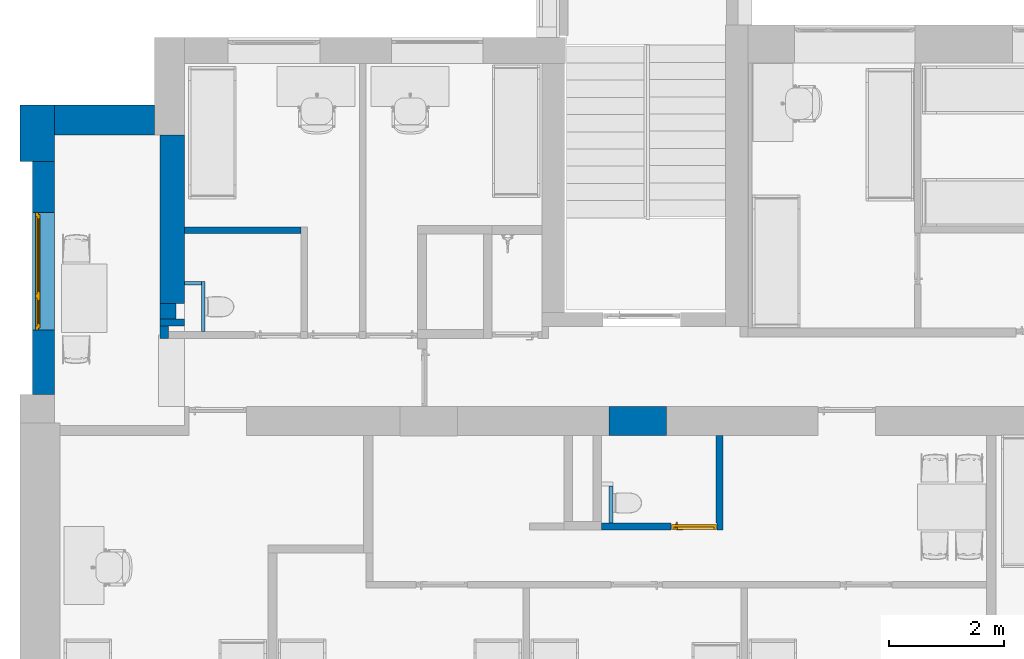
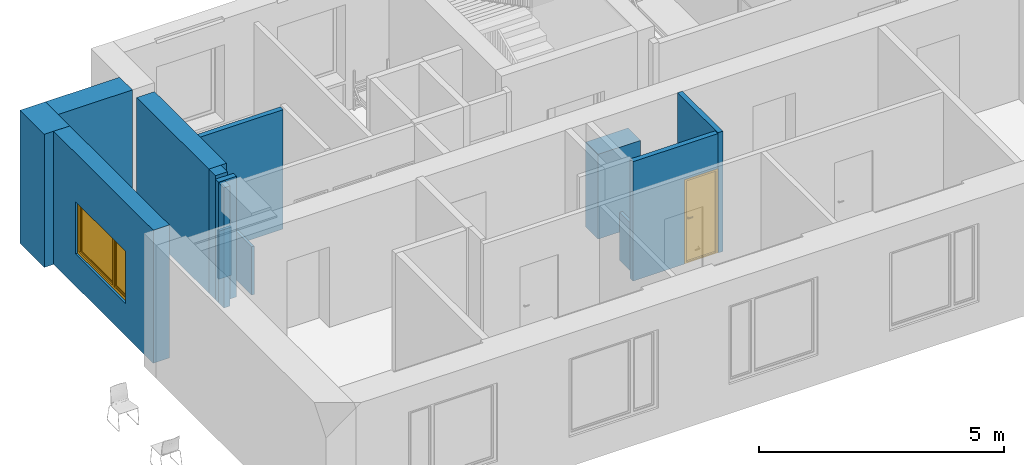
# One storey, part 4 of 48: 14 walls, 1 door, 1 window, 3 openings.
"""IFC2X3 building model written with IfcOpenShell, lengths in millimetres."""

import ifcopenshell
import ifcopenshell.guid

model = None  # the IFC model being written
_history = None  # IfcOwnerHistory: only IFC2X3 demands one
_inside = {}  # id of a spatial element -> (the spatial element, [elements in it])
_under = {}  # id of a project, library or spatial element -> (it, [spatial elements below it])
_declared = {}  # id of a project -> (the project, [libraries it declares])
_typed = {}  # id of a type object -> (the type object, [elements of that type])
_made_of = {}  # id of a material, layer set ... -> (it, [elements and type objects made of it])


def new_model(schema):
    """Start an empty IFC model of exactly this schema.

    Asked for "IFC4X3", IfcOpenShell would pick the latest addendum, in which some entities
    have other attributes; the version numbers below select the first issue.
    IFC2X3 requires an IfcOwnerHistory on every rooted entity: one is made here for all.
    """
    global model, _history
    if schema == "IFC4X3":
        model = ifcopenshell.file(schema_version=(4, 3, 0, 0))
    else:
        model = ifcopenshell.file(schema=schema)
    _inside.clear()
    _under.clear()
    _declared.clear()
    _typed.clear()
    _made_of.clear()
    _history = None
    if model.schema == "IFC2X3":
        org = make("IfcOrganization", Name="unknown")
        user = make(
            "IfcPersonAndOrganization",
            ThePerson=make("IfcPerson", FamilyName="unknown"),
            TheOrganization=org,
        )
        app = make(
            "IfcApplication",
            ApplicationDeveloper=org,
            Version="unknown",
            ApplicationFullName="unknown",
            ApplicationIdentifier="unknown",
        )
        _history = make(
            "IfcOwnerHistory",
            OwningUser=user,
            OwningApplication=app,
            ChangeAction="ADDED",
            CreationDate=0,
        )
    return model


def make(cls, **values):
    """One entity of the class cls with the attributes given. An attribute that is None is left unset."""
    return model.create_entity(
        cls, **{name: value for name, value in values.items() if value is not None}
    )


def entity(cls, *values):
    """Any entity or typed value of the class cls, its attributes in the order of the schema. None: left unset."""
    e = model.create_entity(cls)
    for i, value in enumerate(values):
        if value is not None:
            e[i] = value
    return e


def rooted(cls, **values):
    """An entity with a GlobalId (a new one), such as an element, a storey or a relation."""
    return make(cls, GlobalId=ifcopenshell.guid.new(), OwnerHistory=_history, **values)


def si_unit(unit_type, name, prefix=None):
    """IfcSIUnit, for example si_unit("LENGTHUNIT", "METRE", prefix="MILLI")."""
    return make("IfcSIUnit", UnitType=unit_type, Prefix=prefix, Name=name)


def converted_unit(unit_type, name, factor, base, dimensions=None, offset=None):
    """IfcConversionBasedUnit, such as the inch: factor (a typed value) times the base unit."""
    return make(
        "IfcConversionBasedUnit"
        if offset is None
        else "IfcConversionBasedUnitWithOffset",
        ConversionOffset=offset,
        Dimensions=None
        if dimensions is None
        else entity("IfcDimensionalExponents", *dimensions),
        UnitType=unit_type,
        Name=name,
        ConversionFactor=make(
            "IfcMeasureWithUnit", ValueComponent=factor, UnitComponent=base
        ),
    )


def derived_unit(unit_type, elements):
    """IfcDerivedUnit: a product of units, each with its exponent."""
    return make(
        "IfcDerivedUnit",
        Elements=[
            make("IfcDerivedUnitElement", Unit=unit, Exponent=power)
            for unit, power in elements
        ],
        UnitType=unit_type,
    )


def assignment(units):
    """IfcUnitAssignment: the units of a project."""
    return None if units is None else make("IfcUnitAssignment", Units=units)


def point(xyz):
    """IfcCartesianPoint."""
    return None if xyz is None else make("IfcCartesianPoint", Coordinates=xyz)


def direction(xyz):
    """IfcDirection."""
    return None if xyz is None else make("IfcDirection", DirectionRatios=xyz)


def frame(location, z_axis=None, x_axis=None):
    """IfcAxis2Placement3D, a coordinate frame: its origin and axes. An axis left out is left unset."""
    return make(
        "IfcAxis2Placement3D",
        Location=point(location),
        Axis=direction(z_axis),
        RefDirection=direction(x_axis),
    )


def frame_2d(location, x_axis=None):
    """IfcAxis2Placement2D, a coordinate frame in the plane: its origin and x axis."""
    return make(
        "IfcAxis2Placement2D", Location=point(location), RefDirection=direction(x_axis)
    )


def origin():
    """The frame at (0, 0, 0) with its axes left unset."""
    return frame((0.0, 0.0, 0.0))


def place(relative_to, where):
    """IfcLocalPlacement: puts the frame where relative to a parent placement (None: the world)."""
    return make(
        "IfcLocalPlacement", PlacementRelTo=relative_to, RelativePlacement=where
    )


def context(
    kind, dimensions, precision=None, world=None, true_north=None, identifier=None
):
    """IfcGeometricRepresentationContext, for example the 3D "Model" context."""
    return make(
        "IfcGeometricRepresentationContext",
        ContextIdentifier=identifier,
        ContextType=kind,
        CoordinateSpaceDimension=dimensions,
        Precision=precision,
        WorldCoordinateSystem=world,
        TrueNorth=true_north,
    )


def subcontext(parent, identifier, kind, view, scale=None):
    """IfcGeometricRepresentationSubContext, for example "Body" below "Model"."""
    return make(
        "IfcGeometricRepresentationSubContext",
        ContextIdentifier=identifier,
        ContextType=kind,
        ParentContext=parent,
        TargetScale=scale,
        TargetView=view,
    )


def project(units=None, contexts=None):
    """IfcProject with its units and contexts."""
    return rooted(
        "IfcProject",
        Name="project",
        RepresentationContexts=contexts,
        UnitsInContext=assignment(units),
    )


def spatial(cls, under=None, at=None, **own):
    """A site, building, storey or space (cls), placed at a placement, below another one or the project."""
    s = rooted(cls, ObjectPlacement=at, **own)
    if under is not None:
        _under.setdefault(under.id(), (under, []))[1].append(s)
    return s


def profile(cls, at=None, kind="AREA", **sizes):
    """A parametric profile (cls). Its sizes go by their IFC names, for example OverallWidth=200.0."""
    return make(cls, ProfileType=kind, Position=at, **sizes)


def rectangle(**sizes):
    """IfcRectangleProfileDef."""
    return profile("IfcRectangleProfileDef", **sizes)


def extrude(swept, where, along, depth):
    """IfcExtrudedAreaSolid: the profile swept, set in the frame where, extruded along a direction by depth."""
    return make(
        "IfcExtrudedAreaSolid",
        SweptArea=swept,
        Position=where,
        ExtrudedDirection=direction(along),
        Depth=depth,
    )


def faces_of(points, faces, orient=None, outer=None):
    """IfcFace entities. A face is a list of loops; a loop is a list of indices into points, from 0.

    orient and outer hold one flag for each loop. By default every Orientation is true, the
    first loop of a face is its IfcFaceOuterBound and the others are IfcFaceBound.
    """
    made = []
    for i, loops in enumerate(faces):
        bounds = []
        for j, loop in enumerate(loops):
            is_outer = j == 0 if outer is None else outer[i][j]
            bounds.append(
                make(
                    "IfcFaceOuterBound" if is_outer else "IfcFaceBound",
                    Bound=make("IfcPolyLoop", Polygon=[points[k] for k in loop]),
                    Orientation=True if orient is None else orient[i][j],
                )
            )
        made.append(make("IfcFace", Bounds=bounds))
    return made


def faceted_brep(points, faces, orient=None, outer=None, voids=None):
    """IfcFacetedBrep: a solid bounded by flat faces; with voids (closed shells), ...WithVoids."""
    shared = [point(p) for p in points]
    hull = make("IfcClosedShell", CfsFaces=faces_of(shared, faces, orient, outer))
    if voids is None:
        return make("IfcFacetedBrep", Outer=hull)
    return make(
        "IfcFacetedBrepWithVoids",
        Outer=hull,
        Voids=[
            make(cls, CfsFaces=faces_of(shared, fs, o, b)) for cls, fs, o, b in voids
        ],
    )


def shape(context_of_items, identifier, shape_type, items):
    """IfcShapeRepresentation: the items that make up one representation, for example the "Body"."""
    return make(
        "IfcShapeRepresentation",
        ContextOfItems=context_of_items,
        RepresentationIdentifier=identifier,
        RepresentationType=shape_type,
        Items=items,
    )


def source(mapping_origin, context_of_items, identifier, shape_type, items):
    """IfcRepresentationMap: a shape defined once, which mapped items show again and again."""
    return make(
        "IfcRepresentationMap",
        MappingOrigin=mapping_origin,
        MappedRepresentation=shape(context_of_items, identifier, shape_type, items),
    )


def transform(
    local_origin,
    x_axis=None,
    y_axis=None,
    z_axis=None,
    scale=None,
    scale2=None,
    scale3=None,
    uniform=True,
):
    """IfcCartesianTransformationOperator3D, or its non-uniform kind. x_axis, y_axis, z_axis: its Axis1, 2, 3."""
    if uniform:
        return make(
            "IfcCartesianTransformationOperator3D",
            Axis1=direction(x_axis),
            Axis2=direction(y_axis),
            LocalOrigin=point(local_origin),
            Scale=scale,
            Axis3=direction(z_axis),
        )
    return make(
        "IfcCartesianTransformationOperator3DnonUniform",
        Axis1=direction(x_axis),
        Axis2=direction(y_axis),
        LocalOrigin=point(local_origin),
        Scale=scale,
        Axis3=direction(z_axis),
        Scale2=scale2,
        Scale3=scale3,
    )


def mapped(mapping_source, mapping_target):
    """IfcMappedItem: shows the shape of a source again, moved by a transform."""
    return make(
        "IfcMappedItem", MappingSource=mapping_source, MappingTarget=mapping_target
    )


def material(Name=None, Category=None):
    """IfcMaterial."""
    return make("IfcMaterial", Name=Name, Category=Category)


def material_list(materials):
    """IfcMaterialList."""
    return make("IfcMaterialList", Materials=materials)


def layer(
    of_material, thickness, ventilated=None, Name=None, Category=None, Priority=None
):
    """IfcMaterialLayer: one layer of a wall or slab, of a material (None: an air gap)."""
    return make(
        "IfcMaterialLayer",
        Material=of_material,
        LayerThickness=thickness,
        IsVentilated=ventilated,
        Name=Name,
        Category=Category,
        Priority=Priority,
    )


def layer_set(layers, Name=None):
    """IfcMaterialLayerSet."""
    return make("IfcMaterialLayerSet", MaterialLayers=layers, LayerSetName=Name)


def layer_usage(for_layer_set, set_direction, sense, offset, extent=None):
    """IfcMaterialLayerSetUsage: how a layer set lies in its element."""
    return make(
        "IfcMaterialLayerSetUsage",
        ForLayerSet=for_layer_set,
        LayerSetDirection=set_direction,
        DirectionSense=sense,
        OffsetFromReferenceLine=offset,
        ReferenceExtent=extent,
    )


def made_of(thing, what):
    """Note that an element or type object is made of a material, layer set ...; save() writes the relation."""
    if what is not None:
        _made_of.setdefault(what.id(), (what, []))[1].append(thing)
    return thing


def type_object(cls, material=None, **own):
    """A type object (cls), such as IfcWallType, which elements share."""
    return made_of(rooted(cls, **own), material)


def type_shapes(of_type, sources):
    """Give a type object the sources (RepresentationMaps) that its elements show as mapped items."""
    of_type.RepresentationMaps = sources


def element(
    cls,
    number,
    at=None,
    inside=None,
    cuts=None,
    type_object=None,
    material=None,
    context=None,
    identifier="Body",
    shape_type=None,
    held_by="IfcProductDefinitionShape",
    body=None,
    shapes=None,
    **own,
):
    """One element of the class cls, such as IfcWall. Its Tag is "e" and its number.

    at: its placement. inside: the storey or other place that contains it. cuts: it is an
    opening in that element (IfcRelVoidsElement). A single representation is given by context,
    identifier, shape_type and body (its items); several are given by shapes. held_by: the class
    of the entity that holds the representations. save() writes the other relations.
    """
    e = rooted(cls, Tag="e%d" % number, ObjectPlacement=at, **own)
    if body is not None:
        shapes = [shape(context, identifier, shape_type, body)]
    if shapes is not None:
        e.Representation = make(held_by, Representations=shapes)
    if inside is not None:
        _inside.setdefault(inside.id(), (inside, []))[1].append(e)
    if cuts is not None:
        rooted(
            "IfcRelVoidsElement", RelatingBuildingElement=cuts, RelatedOpeningElement=e
        )
    if type_object is not None:
        _typed.setdefault(type_object.id(), (type_object, []))[1].append(e)
    return made_of(e, material)


def fill(opening, filler):
    """IfcRelFillsElement: the door or window that sits in an opening."""
    return rooted(
        "IfcRelFillsElement",
        RelatingOpeningElement=opening,
        RelatedBuildingElement=filler,
    )


def aggregate(whole, parts):
    """IfcRelAggregates: a whole, such as a stair, and the parts it consists of."""
    return rooted("IfcRelAggregates", RelatingObject=whole, RelatedObjects=parts)


def save(model, path):
    """Write the relations noted so far, then the file.

    IfcRelAggregates (storeys below a building ...), IfcRelContainedInSpatialStructure (elements
    in a storey), IfcRelDefinesByType, IfcRelAssociatesMaterial and IfcRelDeclares: one each for
    every whole, place, type object, material and project.
    """
    for whole, parts in _under.values():
        aggregate(whole, parts)
    for where, things in _inside.values():
        rooted(
            "IfcRelContainedInSpatialStructure",
            RelatedElements=things,
            RelatingStructure=where,
        )
    for kind, things in _typed.values():
        rooted("IfcRelDefinesByType", RelatedObjects=things, RelatingType=kind)
    for what, things in _made_of.values():
        rooted("IfcRelAssociatesMaterial", RelatedObjects=things, RelatingMaterial=what)
    for by, libraries in _declared.values():
        rooted("IfcRelDeclares", RelatingContext=by, RelatedDefinitions=libraries)
    model.write(path)


model = new_model("IFC2X3")

# Units and contexts
model_context = context("Model", 3, precision=0.01, world=origin(), true_north=direction((6.12303176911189e-17, 1.0)))
body_context = subcontext(model_context, "Body", "Model", "MODEL_VIEW")
ifc_project = project(units=[si_unit("LENGTHUNIT", "METRE", prefix="MILLI"), si_unit("AREAUNIT", "SQUARE_METRE"), si_unit("VOLUMEUNIT", "CUBIC_METRE"), converted_unit("PLANEANGLEUNIT", "DEGREE", entity("IfcRatioMeasure", 0.0174532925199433), si_unit("PLANEANGLEUNIT", "RADIAN"), dimensions=[0, 0, 0, 0, 0, 0, 0]), si_unit("MASSUNIT", "GRAM", prefix="KILO"), derived_unit("MASSDENSITYUNIT", [(si_unit("MASSUNIT", "GRAM", prefix="KILO"), 1), (si_unit("LENGTHUNIT", "METRE"), -3)]), si_unit("TIMEUNIT", "SECOND"), si_unit("FREQUENCYUNIT", "HERTZ"), si_unit("THERMODYNAMICTEMPERATUREUNIT", "DEGREE_CELSIUS"), derived_unit("THERMALTRANSMITTANCEUNIT", [(si_unit("MASSUNIT", "GRAM", prefix="KILO"), 1), (si_unit("THERMODYNAMICTEMPERATUREUNIT", "KELVIN"), -1), (si_unit("TIMEUNIT", "SECOND"), -3)]), derived_unit("VOLUMETRICFLOWRATEUNIT", [(si_unit("LENGTHUNIT", "METRE"), 3), (si_unit("TIMEUNIT", "SECOND"), -1)]), si_unit("ELECTRICCURRENTUNIT", "AMPERE"), si_unit("ELECTRICVOLTAGEUNIT", "VOLT"), si_unit("POWERUNIT", "WATT"), si_unit("FORCEUNIT", "NEWTON", prefix="KILO"), si_unit("ILLUMINANCEUNIT", "LUX"), si_unit("LUMINOUSFLUXUNIT", "LUMEN"), si_unit("LUMINOUSINTENSITYUNIT", "CANDELA"), derived_unit("USERDEFINED", [(si_unit("MASSUNIT", "GRAM", prefix="KILO"), -1), (si_unit("LENGTHUNIT", "METRE"), -2), (si_unit("TIMEUNIT", "SECOND"), 3), (si_unit("LUMINOUSFLUXUNIT", "LUMEN"), 1)]), derived_unit("LINEARVELOCITYUNIT", [(si_unit("LENGTHUNIT", "METRE"), 1), (si_unit("TIMEUNIT", "SECOND"), -1)]), si_unit("PRESSUREUNIT", "PASCAL"), derived_unit("USERDEFINED", [(si_unit("LENGTHUNIT", "METRE"), -2), (si_unit("MASSUNIT", "GRAM", prefix="KILO"), 1), (si_unit("TIMEUNIT", "SECOND"), -2)]), derived_unit("LINEARFORCEUNIT", [(si_unit("MASSUNIT", "GRAM", prefix="KILO"), 1), (si_unit("LENGTHUNIT", "METRE"), 1), (si_unit("TIMEUNIT", "SECOND"), -2), (si_unit("LENGTHUNIT", "METRE"), -1)]), derived_unit("PLANARFORCEUNIT", [(si_unit("MASSUNIT", "GRAM", prefix="KILO"), 1), (si_unit("LENGTHUNIT", "METRE"), 1), (si_unit("TIMEUNIT", "SECOND"), -2), (si_unit("LENGTHUNIT", "METRE"), -2)])], contexts=[model_context])

# Site, building, storey
site_placement = place(None, origin())
site = spatial("IfcSite", under=ifc_project, at=site_placement, Name="Default", CompositionType="ELEMENT")
building_placement = place(site_placement, origin())
building = spatial("IfcBuilding", under=site, at=building_placement, Name="SMA ARH", CompositionType="ELEMENT")
storey_placement = place(building_placement, frame((0.0, 0.0, 6600.0)))
storey = spatial("IfcBuildingStorey", under=building, at=storey_placement, Name="3 Korrus", CompositionType="ELEMENT", Elevation=6599.99999999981)

# Walls
ifc_material_1 = material(Name="_ol.olev sein")
ifc_layer_1 = layer(ifc_material_1, 520.0)
ifc_layer_set_1 = layer_set([ifc_layer_1], Name="Basic Wall:Generic - 520mm")
ifc_layer_usage_1 = layer_usage(ifc_layer_set_1, "AXIS2", "NEGATIVE", 260.0)
wall_type_1 = type_object("IfcWallType", Name="Basic Wall:Generic - 520mm", PredefinedType="STANDARD", material=ifc_layer_set_1)
wall_1_placement = place(storey_placement, frame((-100.0, 11510.0, 0.0)))
element("IfcWallStandardCase", 1, at=wall_1_placement, inside=storey, type_object=wall_type_1, material=ifc_layer_usage_1, Name="Basic Wall:Generic - 520mm", ObjectType="Basic Wall:Generic - 520mm", context=body_context, shape_type="SweptSolid", body=[
    extrude(rectangle(XDim=1745.00000000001, YDim=519.999999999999, at=frame_2d((872.500000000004, -8.5265128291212e-14), x_axis=(-1.0, 0.0))), origin(), (0.0, 0.0, 1.0), 3309.99999999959),
])
ifc_layer_2 = layer(ifc_material_1, 420.0)
ifc_layer_set_2 = layer_set([ifc_layer_2], Name="Basic Wall:Generic - 420mm")
ifc_layer_usage_2 = layer_usage(ifc_layer_set_2, "AXIS2", "NEGATIVE", 210.0)
wall_type_2 = type_object("IfcWallType", Name="Basic Wall:Generic - 420mm", PredefinedType="STANDARD", material=ifc_layer_set_2)
wall_2_placement = place(storey_placement, frame((1955.0, 11250.0, 0.0), z_axis=(0.0, 0.0, 1.0), x_axis=(0.0, -1.0, 0.0)))
element("IfcWallStandardCase", 2, at=wall_2_placement, inside=storey, type_object=wall_type_2, material=ifc_layer_usage_2, Name="Basic Wall:Generic - 420mm", ObjectType="Basic Wall:Generic - 420mm", context=body_context, shape_type="SweptSolid", body=[
    extrude(rectangle(XDim=2940.0, YDim=420.0, at=frame_2d((1470.0, 8.5265128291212e-14), x_axis=(-1.0, 0.0))), origin(), (0.0, 0.0, 1.0), 3086.49598494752),
])
ifc_layer_usage_3 = layer_usage(ifc_layer_set_2, "AXIS2", "NEGATIVE", 210.0)
wall_3_placement = place(storey_placement, frame((1955.0, 8041.44692735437, 0.0), z_axis=(0.0, 0.0, 1.0), x_axis=(0.0, -1.0, 0.0)))
element("IfcWallStandardCase", 3, at=wall_3_placement, inside=storey, type_object=wall_type_2, material=ifc_layer_usage_3, Name="Basic Wall:Generic - 420mm", ObjectType="Basic Wall:Generic - 420mm", context=body_context, shape_type="SweptSolid", body=[
    extrude(rectangle(XDim=126.569300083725, YDim=420.0, at=frame_2d((63.2846500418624, -4.2632564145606e-14), x_axis=(-1.0, 0.0))), origin(), (0.0, 0.0, 1.0), 2999.99999999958),
])
ifc_layer_3 = layer(ifc_material_1, 280.0)
ifc_layer_set_3 = layer_set([ifc_layer_3], Name="Basic Wall:Generic - 280mm")
ifc_layer_usage_4 = layer_usage(ifc_layer_set_3, "AXIS2", "NEGATIVE", 140.0)
wall_type_3 = type_object("IfcWallType", Name="Basic Wall:Generic - 280mm", PredefinedType="STANDARD", material=ifc_layer_set_3)
wall_4_placement = place(storey_placement, frame((1885.0, 8310.0, 0.0), z_axis=(0.0, 0.0, 1.0), x_axis=(0.0, -1.0, 0.0)))
element("IfcWallStandardCase", 4, at=wall_4_placement, inside=storey, type_object=wall_type_3, material=ifc_layer_usage_4, Name="Basic Wall:Generic - 280mm", ObjectType="Basic Wall:Generic - 280mm", context=body_context, shape_type="SweptSolid", body=[
    extrude(rectangle(XDim=268.5530726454, YDim=280.0, at=frame_2d((134.2765363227, -4.2632564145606e-14), x_axis=(-1.0, 0.0))), origin(), (0.0, 0.0, 1.0), 3086.49598494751),
])
ifc_layer_4 = layer(ifc_material_1, 600.0)
ifc_layer_set_4 = layer_set([ifc_layer_4], Name="Basic Wall:Generic - 600mm")
ifc_layer_usage_5 = layer_usage(ifc_layer_set_4, "AXIS2", "NEGATIVE", 300.0)
wall_type_4 = type_object("IfcWallType", Name="Basic Wall:Generic - 600mm", PredefinedType="STANDARD", material=ifc_layer_set_4)
wall_5_placement = place(storey_placement, frame((-400.0, 10780.0, 0.0), z_axis=(0.0, 0.0, 1.0), x_axis=(0.0, 1.0, 0.0)))
element("IfcWallStandardCase", 5, at=wall_5_placement, inside=storey, type_object=wall_type_4, material=ifc_layer_usage_5, Name="Basic Wall:Generic - 600mm", ObjectType="Basic Wall:Generic - 600mm", context=body_context, shape_type="SweptSolid", body=[
    extrude(rectangle(XDim=990.000000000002, YDim=600.0, at=frame_2d((495.000000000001, 2.8421709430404e-14), x_axis=(-1.0, 0.0))), origin(), (0.0, 0.0, 1.0), 3309.99999999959),
])

# Wall, opening, window
ifc_layer_5 = layer(ifc_material_1, 380.0)
ifc_layer_set_5 = layer_set([ifc_layer_5], Name="Basic Wall:Generic - 380mm")
ifc_layer_usage_6 = layer_usage(ifc_layer_set_5, "AXIS2", "NEGATIVE", 190.0)
wall_type_5 = type_object("IfcWallType", Name="Basic Wall:Generic - 380mm", PredefinedType="STANDARD", material=ifc_layer_set_5)
wall_6_placement = place(storey_placement, frame((-290.0, 6720.0, 0.0), z_axis=(0.0, 0.0, 1.0), x_axis=(0.0, 1.0, 0.0)))
wall_6 = element("IfcWallStandardCase", 6, at=wall_6_placement, inside=storey, type_object=wall_type_5, material=ifc_layer_usage_6, Name="Basic Wall:Generic - 380mm", ObjectType="Basic Wall:Generic - 380mm", context=body_context, shape_type="SweptSolid", body=[
    extrude(rectangle(XDim=4059.99999999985, YDim=380.0, at=frame_2d((2029.99999999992, 0.0), x_axis=(-1.0, 0.0))), origin(), (0.0, 0.0, 1.0), 3309.99999999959),
])
opening_1_placement = place(wall_6_placement, frame((1125.0, -190.0, 800.0)))
opening_1 = element("IfcOpeningElement", 7, at=opening_1_placement, cuts=wall_6, Name="SMA_W2, 2-jaotus:A-00 - 2100x1300:1", ObjectType="Opening", context=body_context, shape_type="SweptSolid", body=[
    extrude(rectangle(XDim=1300.0, YDim=2050.0, at=frame_2d((650.0, 1025.0), x_axis=(1.0, 0.0))), frame((0.0, 0.0, 0.0), z_axis=(0.0, 1.0, 0.0), x_axis=(0.0, 0.0, 1.0)), (0.0, 0.0, 1.0), 380.0),
])
ifc_material_2 = material(Name="Glass")
ifc_material_3 = material(Name="Hall")
ifc_material_list_1 = material_list([ifc_material_2, ifc_material_3])
ifc_material_4 = material(Name="<Unnamed>")
ifc_material_list_2 = material_list([ifc_material_4, ifc_material_3, ifc_material_2, ifc_material_4, ifc_material_3])
window_style = type_object("IfcWindowStyle", Name="SMA_W2, 2-jaotus:A-00 - 2100x1300", ConstructionType="NOTDEFINED", OperationType="NOTDEFINED", ParameterTakesPrecedence=False, Sizeable=False, material=ifc_material_list_2)
shared_shape_1 = source(origin(), body_context, "Body", "Brep", [
    faceted_brep([(1945.0, 270.0, 1195.0), (660.0, 270.0, 1195.0), (660.0, 270.0, 105.0), (1945.0, 270.0, 105.0), (1945.0, 290.0, 105.0), (1945.0, 290.0, 1195.0), (660.0, 290.0, 105.0), (660.0, 290.0, 1195.0)], [[[0, 1, 2, 3]], [[3, 4, 5, 0]], [[2, 6, 4, 3]], [[1, 7, 6, 2]], [[5, 4, 6, 7]], [[0, 5, 7, 1]]]),
    faceted_brep([(520.0, 270.0, 105.0), (520.0, 270.0, 1195.0), (105.0, 270.0, 1195.0), (105.0, 270.0, 105.0), (105.0, 290.0, 105.0), (520.0, 290.0, 105.0), (105.0, 290.0, 1195.0), (520.0, 290.0, 1195.0)], [[[0, 1, 2, 3]], [[3, 4, 5, 0]], [[2, 6, 4, 3]], [[0, 5, 7, 1]], [[5, 4, 6, 7]], [[1, 7, 6, 2]]]),
    faceted_brep([(2015.0, 255.0, 35.0), (2015.0, 255.0, 1265.0), (590.0, 255.0, 1265.0), (590.0, 255.0, 35.0), (660.0, 255.0, 1195.0), (1945.0, 255.0, 1195.0), (1945.0, 255.0, 105.0), (660.0, 255.0, 105.0), (590.0, 305.0, 35.0), (2015.0, 305.0, 35.0), (590.0, 305.0, 1265.0), (2015.0, 305.0, 1265.0), (660.0, 305.0, 105.0), (660.0, 305.0, 1195.0), (1945.0, 305.0, 105.0), (1945.0, 305.0, 1195.0)], [[[0, 1, 2, 3], [4, 5, 6, 7]], [[3, 8, 9, 0]], [[2, 10, 8, 3]], [[0, 9, 11, 1]], [[7, 12, 13, 4]], [[6, 14, 12, 7]], [[5, 15, 14, 6]], [[9, 8, 10, 11], [13, 12, 14, 15]], [[1, 11, 10, 2]], [[4, 13, 15, 5]]]),
    faceted_brep([(590.0, 255.0, 35.0), (590.0, 255.0, 1265.0), (35.0, 255.0, 1265.0), (35.0, 255.0, 35.0), (105.0, 255.0, 1195.0), (520.0, 255.0, 1195.0), (520.0, 255.0, 105.0), (105.0, 255.0, 105.0), (35.0, 305.0, 35.0), (590.0, 305.0, 35.0), (35.0, 305.0, 1265.0), (590.0, 305.0, 1265.0), (105.0, 305.0, 105.0), (105.0, 305.0, 1195.0), (520.0, 305.0, 105.0), (520.0, 305.0, 1195.0)], [[[0, 1, 2, 3], [4, 5, 6, 7]], [[3, 8, 9, 0]], [[2, 10, 8, 3]], [[0, 9, 11, 1]], [[7, 12, 13, 4]], [[6, 14, 12, 7]], [[5, 15, 14, 6]], [[9, 8, 10, 11], [13, 12, 14, 15]], [[1, 11, 10, 2]], [[4, 13, 15, 5]]]),
    faceted_brep([(35.0, 280.0, 35.0), (35.0, 280.0, 1265.0), (590.0, 280.0, 1265.0), (590.0, 280.0, 35.0), (1980.0, 280.0, 1230.0), (1980.0, 280.0, 70.0), (625.0, 280.0, 70.0), (625.0, 280.0, 1230.0), (2050.0, 280.0, 0.0), (2050.0, 280.0, 1300.0), (0.0, 280.0, 1300.0), (0.0, 280.0, 0.0), (0.0, 330.0, 0.0), (2050.0, 330.0, 0.0), (0.0, 330.0, 1300.0), (2050.0, 330.0, 1300.0), (625.0, 330.0, 70.0), (625.0, 330.0, 1230.0), (1980.0, 330.0, 70.0), (1980.0, 330.0, 1230.0), (35.0, 305.0, 35.0), (590.0, 305.0, 35.0), (590.0, 305.0, 1265.0), (35.0, 305.0, 1265.0), (555.0, 330.0, 1230.0), (70.0, 330.0, 1230.0), (70.0, 330.0, 70.0), (555.0, 330.0, 70.0), (555.0, 305.0, 70.0), (555.0, 305.0, 1230.0), (70.0, 305.0, 70.0), (70.0, 305.0, 1230.0)], [[[0, 1, 2, 3], [4, 5, 6, 7], [8, 9, 10, 11]], [[11, 12, 13, 8]], [[10, 14, 12, 11]], [[8, 13, 15, 9]], [[6, 16, 17, 7]], [[5, 18, 16, 6]], [[4, 19, 18, 5]], [[20, 0, 3, 21]], [[21, 3, 2, 22]], [[23, 1, 0, 20]], [[13, 12, 14, 15], [24, 25, 26, 27], [19, 17, 16, 18]], [[27, 28, 29, 24]], [[26, 30, 28, 27]], [[25, 31, 30, 26]], [[21, 22, 23, 20], [29, 28, 30, 31]], [[9, 15, 14, 10]], [[24, 29, 31, 25]], [[7, 17, 19, 4]], [[22, 2, 1, 23]]], outer=[[False, False, True], [True], [True], [True], [True], [True], [True], [True], [True], [True], [True, False, False], [True], [True], [True], [True, False], [True], [True], [True], [True]]),
])
type_shapes(window_style, [shared_shape_1])
window_placement = place(opening_1_placement, origin())
window = element("IfcWindow", 8, at=window_placement, inside=storey, type_object=window_style, material=ifc_material_list_1, Name="SMA_W2, 2-jaotus:A-00 - 2100x1300", ObjectType="SMA_W2, 2-jaotus:A-00 - 2100x1300", OverallHeight=1300.0, OverallWidth=2050.0, context=body_context, shape_type="MappedRepresentation", body=[
    mapped(shared_shape_1, transform((0.0, 0.0, 0.0), scale=1.0)),
])
fill(opening_1, window)

# Wall
ifc_material_5 = material(Name="EST. Ehitusplaat. Kipsplaat")
ifc_layer_6 = layer(ifc_material_5, 12.5)
ifc_layer_7 = layer(ifc_material_5, 12.5)
ifc_material_6 = material(Name="EST. Soojustus. Mineraalvill. Default")
ifc_layer_8 = layer(ifc_material_6, 66.0)
ifc_layer_9 = layer(ifc_material_5, 12.5)
ifc_layer_10 = layer(ifc_material_5, 12.5)
ifc_layer_set_6 = layer_set([ifc_layer_6, ifc_layer_7, ifc_layer_8, ifc_layer_9, ifc_layer_10], Name="Basic Wall:SS-05_Kips, 66mm metallkarkass")
ifc_layer_usage_7 = layer_usage(ifc_layer_set_6, "AXIS2", "NEGATIVE", 58.0)
wall_type_6 = type_object("IfcWallType", Name="Basic Wall:SS-05_Kips, 66mm metallkarkass", PredefinedType="STANDARD", material=ifc_layer_set_6)
wall_7_placement = place(storey_placement, frame((2165.0, 9585.50000000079, 0.0)))
element("IfcWallStandardCase", 9, at=wall_7_placement, inside=storey, type_object=wall_type_6, material=ifc_layer_usage_7, Name="Basic Wall:SS-05_Kips, 66mm metallkarkass", ObjectType="Basic Wall:SS-05_Kips, 66mm metallkarkass", context=body_context, shape_type="SweptSolid", body=[
    extrude(rectangle(XDim=2032.32130046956, YDim=116.0, at=frame_2d((1016.16065023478, -7.46069872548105e-14), x_axis=(-1.0, 0.0))), origin(), (0.0, 0.0, 1.0), 2970.00000000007),
])

# Wall, opening, door
ifc_layer_11 = layer(ifc_material_5, 12.5)
ifc_layer_12 = layer(ifc_material_5, 12.5)
ifc_material_7 = material(Name="EST. Õhkvahe. Roov. Kipsplaadi alusroov. Vertikaalne")
ifc_layer_13 = layer(ifc_material_7, 66.0)
ifc_layer_14 = layer(ifc_material_5, 12.5)
ifc_layer_15 = layer(ifc_material_5, 12.5)
ifc_layer_set_7 = layer_set([ifc_layer_11, ifc_layer_12, ifc_layer_13, ifc_layer_14, ifc_layer_15], Name="Basic Wall:SS-03_Kips, 66mm metallkarkass")
ifc_layer_usage_8 = layer_usage(ifc_layer_set_7, "AXIS2", "NEGATIVE", 58.0)
wall_type_7 = type_object("IfcWallType", Name="Basic Wall:SS-03_Kips, 66mm metallkarkass", PredefinedType="STANDARD", material=ifc_layer_set_7)
wall_8_placement = place(storey_placement, frame((9440.0, 4418.0, 0.0)))
wall_8 = element("IfcWallStandardCase", 10, at=wall_8_placement, inside=storey, type_object=wall_type_7, material=ifc_layer_usage_8, Name="Basic Wall:SS-03_Kips, 66mm metallkarkass", ObjectType="Basic Wall:SS-03_Kips, 66mm metallkarkass", context=body_context, shape_type="SweptSolid", body=[
    extrude(rectangle(XDim=2002.00000000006, YDim=116.0, at=frame_2d((1001.00000000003, 9.2370555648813e-14), x_axis=(-1.0, 0.0))), origin(), (0.0, 0.0, 1.0), 2970.00000000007),
])
opening_2_placement = place(wall_8_placement, frame((1214.50000000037, -58.0, 0.0)))
opening_2 = element("IfcOpeningElement", 11, at=opening_2_placement, cuts=wall_8, Name="SMA_D01, 1-poolne:SU-P-06 - 800x2100 DUŠŠ:1", ObjectType="Opening", context=body_context, shape_type="SweptSolid", body=[
    extrude(rectangle(XDim=2099.99999999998, YDim=800.0, at=frame_2d((1049.99999999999, 400.0), x_axis=(1.0, 0.0))), frame((0.0, 0.0, 0.0), z_axis=(0.0, 1.0, 0.0), x_axis=(0.0, 0.0, 1.0)), (0.0, 0.0, 1.0), 116.0),
])
ifc_material_8 = material(Name="EST. Metall. Alumiinium. Värvitud. RAL7023 (Concrete grey)")
ifc_material_9 = material(Name="EST. Klaas. 3x. Default")
ifc_material_list_3 = material_list([ifc_material_8, ifc_material_8, ifc_material_4, ifc_material_9, ifc_material_4, ifc_material_8, ifc_material_4])
door_style = type_object("IfcDoorStyle", Name="SMA_D01, 1-poolne:SU-P-06 - 800x2100 DUŠŠ", ConstructionType="NOTDEFINED", OperationType="SINGLE_SWING_RIGHT", ParameterTakesPrecedence=False, Sizeable=False, material=ifc_material_list_3)
shared_shape_2 = source(origin(), body_context, "Body", "Brep", [
    faceted_brep([(110.0, 6.0, 1112.5), (110.0, 44.0, 1112.5), (85.0, 44.0, 1112.5), (85.0, 1.0, 1112.5), (205.0, 1.0, 1112.5), (205.0, 6.0, 1112.5), (110.0, 6.0, 1087.5), (205.0, 6.0, 1087.5), (205.0, 1.0, 1087.5), (85.0, 1.0, 1087.5), (85.0, 44.0, 1087.5), (110.0, 44.0, 1087.5)], [[[0, 1, 2, 3, 4, 5]], [[6, 7, 8, 9, 10, 11]], [[1, 0, 6, 11]], [[2, 1, 11, 10]], [[3, 2, 10, 9]], [[4, 3, 9, 8]], [[5, 4, 8, 7]], [[0, 5, 7, 6]]]),
    faceted_brep([(122.5, 44.0, 1137.5), (122.5, 46.0, 1137.5), (72.4999999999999, 46.0, 1137.5), (72.4999999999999, 44.0, 1137.5), (122.5, 44.0, 1017.5), (72.4999999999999, 44.0, 1017.5), (72.4999999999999, 46.0, 1017.5), (122.5, 46.0, 1017.5)], [[[0, 1, 2, 3]], [[4, 5, 6, 7]], [[1, 0, 4, 7]], [[2, 1, 7, 6]], [[3, 2, 6, 5]], [[0, 3, 5, 4]]]),
    faceted_brep([(110.0, 136.0, 1112.5), (205.0, 136.0, 1112.5), (205.0, 141.0, 1112.5), (85.0, 141.0, 1112.5), (85.0, 98.0, 1112.5), (110.0, 98.0, 1112.5), (110.0, 136.0, 1087.5), (110.0, 98.0, 1087.5), (85.0, 98.0, 1087.5), (85.0, 141.0, 1087.5), (205.0, 141.0, 1087.5), (205.0, 136.0, 1087.5)], [[[0, 1, 2, 3, 4, 5]], [[6, 7, 8, 9, 10, 11]], [[5, 7, 6, 0]], [[4, 8, 7, 5]], [[3, 9, 8, 4]], [[2, 10, 9, 3]], [[1, 11, 10, 2]], [[0, 6, 11, 1]]]),
    faceted_brep([(122.5, 98.0, 1137.5), (72.4999999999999, 98.0, 1137.5), (72.4999999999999, 96.0, 1137.5), (122.5, 96.0, 1137.5), (122.5, 98.0, 1017.5), (122.5, 96.0, 1017.5), (72.4999999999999, 96.0, 1017.5), (72.4999999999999, 98.0, 1017.5)], [[[0, 1, 2, 3]], [[4, 5, 6, 7]], [[3, 5, 4, 0]], [[2, 6, 5, 3]], [[1, 7, 6, 2]], [[0, 4, 7, 1]]]),
    faceted_brep([(750.0, 6.0, 30.0), (750.0, 6.0, 0.0), (750.0, 46.0, 0.0), (750.0, 46.0, 20.0), (750.0, 46.0, 30.0), (50.0, 6.0, 30.0), (50.0, 46.0, 30.0), (50.0, 46.0, 20.0), (50.0, 46.0, 0.0), (50.0, 6.0, 0.0), (35.0, 46.0, 0.0), (35.0, 96.0, 0.0), (765.0, 96.0, 0.0), (765.0, 46.0, 0.0), (765.0, 96.0, 20.0), (765.0, 46.0, 20.0), (35.0, 96.0, 20.0), (35.0, 46.0, 20.0)], [[[0, 1, 2, 3, 4]], [[5, 6, 7, 8, 9]], [[1, 0, 5, 9]], [[2, 1, 9, 8, 10, 11, 12, 13]], [[6, 4, 3, 7]], [[0, 4, 6, 5]], [[14, 15, 13, 12]], [[16, 11, 10, 17]], [[15, 14, 16, 17, 7, 3]], [[13, 15, 3, 2]], [[14, 12, 11, 16]], [[17, 10, 8, 7]]]),
    faceted_brep([(790.0, 6.0, 0.0), (750.0, 6.0, 0.0), (750.0, 46.0, 0.0), (765.0, 46.0, 0.0), (765.0, 96.0, 0.0), (790.0, 96.0, 0.0), (790.0, 6.0, 2090.0), (10.0, 6.0, 2090.0), (10.0, 6.0, 0.0), (50.0, 6.0, 0.0), (50.0, 6.0, 2050.0), (750.0, 6.0, 2050.0), (750.0, 46.0, 2050.0), (50.0, 46.0, 2050.0), (50.0, 46.0, 0.0), (35.0, 46.0, 0.0), (35.0, 46.0, 2065.0), (765.0, 46.0, 2065.0), (765.0, 96.0, 2065.0), (35.0, 96.0, 2065.0), (35.0, 96.0, 0.0), (10.0, 96.0, 0.0), (10.0, 96.0, 2090.0), (790.0, 96.0, 2090.0)], [[[0, 1, 2, 3, 4, 5]], [[1, 0, 6, 7, 8, 9, 10, 11]], [[2, 1, 11, 12]], [[3, 2, 12, 13, 14, 15, 16, 17]], [[4, 3, 17, 18]], [[5, 4, 18, 19, 20, 21, 22, 23]], [[0, 5, 23, 6]], [[8, 7, 22, 21]], [[9, 8, 21, 20, 15, 14]], [[10, 9, 14, 13]], [[16, 15, 20, 19]], [[11, 10, 13, 12]], [[17, 16, 19, 18]], [[7, 6, 23, 22]]]),
    faceted_brep([(35.0, 46.0, 2065.0), (35.0, 46.0, 20.0), (765.0, 46.0, 20.0), (765.0, 46.0, 2065.0), (35.0, 96.0, 2065.0), (765.0, 96.0, 2065.0), (765.0, 96.0, 20.0), (35.0, 96.0, 20.0)], [[[0, 1, 2, 3]], [[4, 5, 6, 7]], [[1, 0, 4, 7]], [[2, 1, 7, 6]], [[3, 2, 6, 5]], [[0, 3, 5, 4]]]),
])
type_shapes(door_style, [shared_shape_2])
door_placement = place(opening_2_placement, origin())
door = element("IfcDoor", 12, at=door_placement, inside=storey, type_object=door_style, material=ifc_material_8, Name="SMA_D01, 1-poolne:SU-P-06 - 800x2100 DUŠŠ", ObjectType="SMA_D01, 1-poolne:SU-P-06 - 800x2100 DUŠŠ", OverallHeight=2099.99999999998, OverallWidth=800.0, context=body_context, shape_type="MappedRepresentation", body=[
    mapped(shared_shape_2, transform((0.0, 0.0, 0.0), scale=1.0)),
])
fill(opening_2, door)

# Wall, opening
ifc_layer_usage_9 = layer_usage(ifc_layer_set_7, "AXIS2", "NEGATIVE", 58.0)
wall_9_placement = place(storey_placement, frame((11500.0, 6005.0, 0.0), z_axis=(0.0, 0.0, 1.0), x_axis=(0.0, -1.0, 0.0)))
wall_9 = element("IfcWallStandardCase", 13, at=wall_9_placement, inside=storey, type_object=wall_type_7, material=ifc_layer_usage_9, Name="Basic Wall:SS-03_Kips, 66mm metallkarkass", ObjectType="Basic Wall:SS-03_Kips, 66mm metallkarkass", context=body_context, shape_type="SweptSolid", body=[
    extrude(rectangle(XDim=1644.99999999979, YDim=116.0, at=frame_2d((822.499999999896, 3.90798504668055e-14), x_axis=(-1.0, 0.0))), origin(), (0.0, 0.0, 1.0), 2989.99999999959),
])
opening_3_placement = place(wall_9_placement, origin())
element("IfcOpeningElement", 14, at=opening_3_placement, cuts=wall_9, Name="Basic Wall:SS-03_Kips, 66mm metallkarkass", ObjectType="Opening", context=body_context, shape_type="SweptSolid", body=[
    extrude(rectangle(XDim=2099.99999999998, YDim=116.0, at=frame_2d((-2.70006239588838e-13, -5.6843418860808e-13), x_axis=(0.0, 1.0))), frame((1587.0, -845.500000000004, 1050.0), z_axis=(0.0, 1.0, 0.0), x_axis=(-1.0, 0.0, 0.0)), (0.0, 0.0, 1.0), 800.0),
])

# Walls
ifc_material_10 = material(Name="EST. Põrand. Plaatkate")
ifc_layer_16 = layer(ifc_material_10, 10.0)
ifc_layer_17 = layer(ifc_material_5, 12.5)
ifc_layer_18 = layer(ifc_material_7, 42.0)
ifc_layer_set_8 = layer_set([ifc_layer_16, ifc_layer_17, ifc_layer_18], Name="Basic Wall:SS-04 - loputuskast")
ifc_layer_usage_10 = layer_usage(ifc_layer_set_8, "AXIS2", "POSITIVE", -32.25)
wall_type_8 = type_object("IfcWallType", Name="Basic Wall:SS-04 - loputuskast", PredefinedType="STANDARD", material=ifc_layer_set_8)
wall_10_placement = place(storey_placement, frame((9607.75000000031, 4476.0, 0.0), z_axis=(0.0, 0.0, 1.0), x_axis=(0.0, 1.0, 0.0)))
element("IfcWallStandardCase", 15, at=wall_10_placement, inside=storey, type_object=wall_type_8, material=ifc_layer_usage_10, Name="Basic Wall:SS-04 - loputuskast", ObjectType="Basic Wall:SS-04 - loputuskast", context=body_context, shape_type="SweptSolid", body=[
    extrude(rectangle(XDim=652.500000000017, YDim=64.5000000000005, at=frame_2d((326.250000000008, 0.0), x_axis=(-1.0, 0.0))), origin(), (0.0, 0.0, 1.0), 1200.0),
])
ifc_layer_usage_11 = layer_usage(ifc_layer_set_8, "AXIS2", "POSITIVE", -32.25)
wall_11_placement = place(storey_placement, frame((2165.0, 8662.75000000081, 0.0)))
element("IfcWallStandardCase", 16, at=wall_11_placement, inside=storey, type_object=wall_type_8, material=ifc_layer_usage_11, Name="Basic Wall:SS-04 - loputuskast", ObjectType="Basic Wall:SS-04 - loputuskast", context=body_context, shape_type="SweptSolid", body=[
    extrude(rectangle(XDim=300.0, YDim=64.5000000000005, at=frame_2d((150.0, -3.09086090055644e-13), x_axis=(-1.0, 0.0))), origin(), (0.0, 0.0, 1.0), 1200.0),
])
ifc_layer_usage_12 = layer_usage(ifc_layer_set_8, "AXIS2", "POSITIVE", -32.25)
wall_12_placement = place(storey_placement, frame((2497.25000000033, 7816.0, 0.0), z_axis=(0.0, 0.0, 1.0), x_axis=(0.0, 1.0, 0.0)))
element("IfcWallStandardCase", 17, at=wall_12_placement, inside=storey, type_object=wall_type_8, material=ifc_layer_usage_12, Name="Basic Wall:SS-04 - loputuskast", ObjectType="Basic Wall:SS-04 - loputuskast", context=body_context, shape_type="SweptSolid", body=[
    extrude(rectangle(XDim=879.000000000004, YDim=64.5000000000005, at=frame_2d((439.500000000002, -2.8421709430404e-14), x_axis=(-1.0, 0.0))), origin(), (0.0, 0.0, 1.0), 1200.0),
])
ifc_material_11 = material(Name="EST. Müüritis. Väikeplokk. Kergkruusplokk")
ifc_layer_19 = layer(ifc_material_11, 510.0)
ifc_layer_set_9 = layer_set([ifc_layer_19], Name="Basic Wall:SS-03_Fibo 510mm kinnilaotav ava")
ifc_layer_usage_13 = layer_usage(ifc_layer_set_9, "AXIS2", "NEGATIVE", 255.0)
wall_type_9 = type_object("IfcWallType", Name="Basic Wall:SS-03_Fibo 510mm kinnilaotav ava", PredefinedType="STANDARD", material=ifc_layer_set_9)
wall_13_placement = place(storey_placement, frame((9575.0, 6260.0, 0.0)))
element("IfcWallStandardCase", 18, at=wall_13_placement, inside=storey, type_object=wall_type_9, material=ifc_layer_usage_13, Name="Basic Wall:SS-03_Fibo 510mm kinnilaotav ava", ObjectType="Basic Wall:SS-03_Fibo 510mm kinnilaotav ava", context=body_context, shape_type="SweptSolid", body=[
    extrude(rectangle(XDim=999.999999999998, YDim=510.000000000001, at=frame_2d((499.999999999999, 0.0), x_axis=(-1.0, 0.0))), origin(), (0.0, 0.0, 1.0), 2109.99999999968),
])
ifc_layer_20 = layer(ifc_material_5, 12.5)
ifc_layer_21 = layer(ifc_material_5, 12.5)
ifc_layer_22 = layer(ifc_material_7, 95.0)
ifc_layer_23 = layer(ifc_material_5, 12.5)
ifc_layer_24 = layer(ifc_material_5, 12.5)
ifc_layer_set_10 = layer_set([ifc_layer_20, ifc_layer_21, ifc_layer_22, ifc_layer_23, ifc_layer_24], Name="Basic Wall:SS-04_Kips, 95mm metallkarkass")
ifc_layer_usage_14 = layer_usage(ifc_layer_set_10, "AXIS2", "NEGATIVE", 72.5)
wall_type_10 = type_object("IfcWallType", Name="Basic Wall:SS-04_Kips, 95mm metallkarkass", PredefinedType="STANDARD", material=ifc_layer_set_10)
wall_14_placement = place(storey_placement, frame((1818.28406728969, 7914.87762727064, 0.0), z_axis=(0.0, 0.0, 1.0), x_axis=(0.0, -1.0, 0.0)))
element("IfcWallStandardCase", 19, at=wall_14_placement, inside=storey, type_object=wall_type_10, material=ifc_layer_usage_14, Name="Basic Wall:SS-04_Kips, 95mm metallkarkass", ObjectType="Basic Wall:SS-04_Kips, 95mm metallkarkass", context=body_context, shape_type="SweptSolid", body=[
    extrude(rectangle(XDim=214.877627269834, YDim=145.0, at=frame_2d((107.438813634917, 0.0), x_axis=(-1.0, 0.0))), origin(), (0.0, 0.0, 1.0), 2989.99999999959),
])

save(model, "model.ifc")
